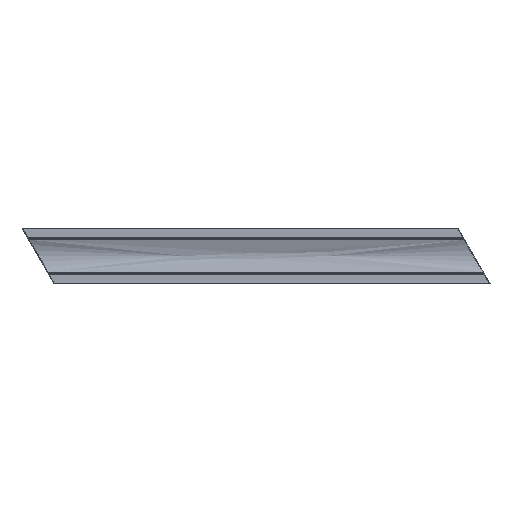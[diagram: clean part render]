
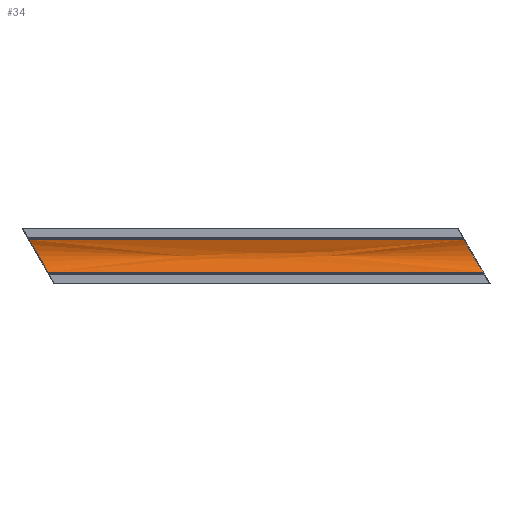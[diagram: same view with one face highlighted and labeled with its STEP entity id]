
A CAD part, top view. The second image highlights one B-rep face of the part: STEP entity #34.
In plain terms, the highlighted free-form (B-spline) face has degree [3, 1] with [8, 2] control points.
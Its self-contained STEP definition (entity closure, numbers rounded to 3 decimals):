
#34=ADVANCED_FACE('',(#68),#581,.T.);
#68=FACE_OUTER_BOUND('',#102,.T.);
#102=EDGE_LOOP('',(#176,#177,#178,#179));
#176=ORIENTED_EDGE('',*,*,#402,.T.);
#177=ORIENTED_EDGE('',*,*,#345,.T.);
#178=ORIENTED_EDGE('',*,*,#387,.T.);
#179=ORIENTED_EDGE('',*,*,#342,.F.);
#342=EDGE_CURVE('',#534,#535,#437,.T.);
#345=EDGE_CURVE('',#542,#543,#440,.T.);
#387=EDGE_CURVE('',#543,#535,#482,.T.);
#402=EDGE_CURVE('',#534,#542,#497,.T.);
#437=B_SPLINE_CURVE_WITH_KNOTS('',1,(#1718,#1719),.UNSPECIFIED.,.F.,.F.,
(2,2),(-389.782,0.),.UNSPECIFIED.);
#440=B_SPLINE_CURVE_WITH_KNOTS('',1,(#1733,#1734),.UNSPECIFIED.,.F.,.F.,
(2,2),(-389.782,0.),.UNSPECIFIED.);
#482=B_SPLINE_CURVE_WITH_KNOTS('',3,(#1911,#1912,#1913,#1914,#1915,#1916,
#1917,#1918,#1919),.UNSPECIFIED.,.F.,.F.,(4,1,1,1,1,1,4),(-34.967,
-30.596,-26.225,-21.854,-17.483,
-8.742,0.),.UNSPECIFIED.);
#497=B_SPLINE_CURVE_WITH_KNOTS('',3,(#1974,#1975,#1976,#1977,#1978,#1979,
#1980,#1981,#1982),.UNSPECIFIED.,.F.,.F.,(4,1,1,1,1,1,4),(-34.966,
-30.596,-26.225,-21.854,-17.483,
-8.742,0.),.UNSPECIFIED.);
#534=VERTEX_POINT('',#1585);
#535=VERTEX_POINT('',#1586);
#542=VERTEX_POINT('',#1593);
#543=VERTEX_POINT('',#1594);
#581=B_SPLINE_SURFACE_WITH_KNOTS('',3,1,((#766,#767),(#768,#769),(#770,
#771),(#772,#773),(#774,#775),(#776,#777),(#778,#779),(#780,#781)),
 .UNSPECIFIED.,.F.,.F.,.F.,(4,1,1,1,1,4),(2,2),(0.,7.707,
15.413,23.12,26.973,30.827),(0.,
411.593),.UNSPECIFIED.);
#766=CARTESIAN_POINT('',(-205.8,14.607,22.956));
#767=CARTESIAN_POINT('',(205.794,14.607,22.956));
#768=CARTESIAN_POINT('',(-205.8,12.296,21.773));
#769=CARTESIAN_POINT('',(205.794,12.296,21.773));
#770=CARTESIAN_POINT('',(-205.8,7.502,19.83));
#771=CARTESIAN_POINT('',(205.794,7.502,19.83));
#772=CARTESIAN_POINT('',(-205.8,-0.09,18.82));
#773=CARTESIAN_POINT('',(205.794,-0.09,18.82));
#774=CARTESIAN_POINT('',(-205.8,-6.405,19.709));
#775=CARTESIAN_POINT('',(205.794,-6.405,19.709));
#776=CARTESIAN_POINT('',(-205.8,-11.269,21.342));
#777=CARTESIAN_POINT('',(205.794,-11.269,21.342));
#778=CARTESIAN_POINT('',(-205.8,-13.612,22.448));
#779=CARTESIAN_POINT('',(205.794,-13.612,22.448));
#780=CARTESIAN_POINT('',(-205.8,-14.768,23.041));
#781=CARTESIAN_POINT('',(205.794,-14.768,23.041));
#1585=CARTESIAN_POINT('',(-203.359,14.607,22.956));
#1586=CARTESIAN_POINT('',(186.423,14.607,22.956));
#1593=CARTESIAN_POINT('',(-186.429,-14.603,22.956));
#1594=CARTESIAN_POINT('',(203.353,-14.603,22.956));
#1718=CARTESIAN_POINT('',(-203.359,14.607,22.956));
#1719=CARTESIAN_POINT('',(186.423,14.607,22.956));
#1733=CARTESIAN_POINT('',(-186.429,-14.603,22.956));
#1734=CARTESIAN_POINT('',(203.353,-14.603,22.956));
#1911=CARTESIAN_POINT('',(203.353,-14.603,22.956));
#1912=CARTESIAN_POINT('',(202.682,-13.447,22.363));
#1913=CARTESIAN_POINT('',(201.325,-11.097,21.275));
#1914=CARTESIAN_POINT('',(199.207,-7.446,20.071));
#1915=CARTESIAN_POINT('',(197.049,-3.722,19.33));
#1916=CARTESIAN_POINT('',(194.166,1.253,18.998));
#1917=CARTESIAN_POINT('',(190.499,7.581,19.855));
#1918=CARTESIAN_POINT('',(187.759,12.296,21.773));
#1919=CARTESIAN_POINT('',(186.423,14.607,22.956));
#1974=CARTESIAN_POINT('',(-203.359,14.607,22.956));
#1975=CARTESIAN_POINT('',(-202.687,13.451,22.364));
#1976=CARTESIAN_POINT('',(-201.331,11.102,21.275));
#1977=CARTESIAN_POINT('',(-199.213,7.45,20.071));
#1978=CARTESIAN_POINT('',(-197.055,3.727,19.33));
#1979=CARTESIAN_POINT('',(-194.172,-1.249,18.998));
#1980=CARTESIAN_POINT('',(-190.504,-7.576,19.857));
#1981=CARTESIAN_POINT('',(-187.765,-12.292,21.77));
#1982=CARTESIAN_POINT('',(-186.429,-14.603,22.956));
